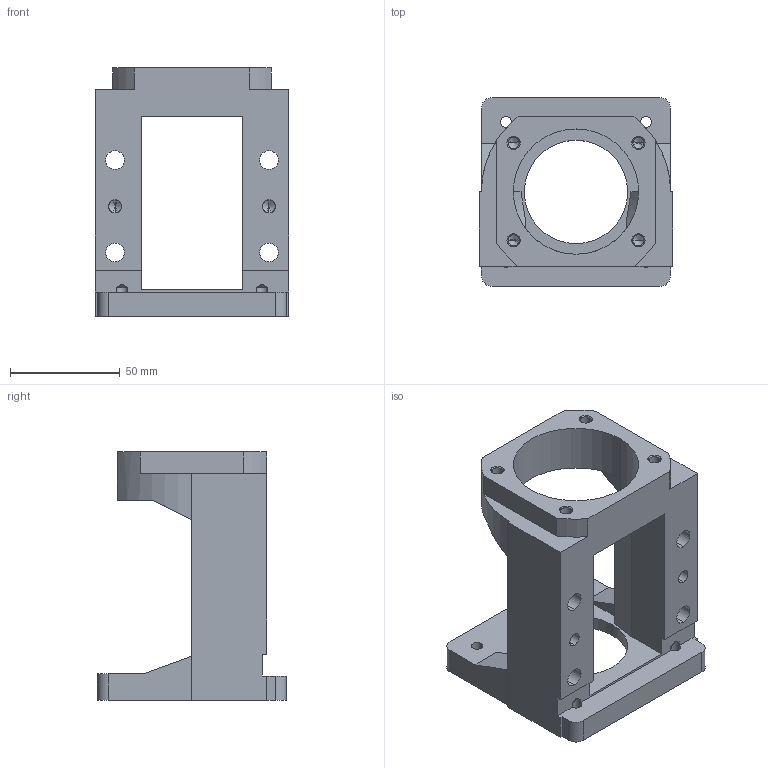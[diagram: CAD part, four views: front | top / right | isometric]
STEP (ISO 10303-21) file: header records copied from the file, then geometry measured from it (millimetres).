
FILE_DESCRIPTION (( 'STEP AP214' ), '1' );
FILE_NAME ('傳動座MBA20-EP.STEP', '2012-02-10T03:05:06', ( '' ), ( '' ), 'SwSTEP 2.0', 'SolidWorks 2011', '' );
FILE_SCHEMA (( 'AUTOMOTIVE_DESIGN' ));
Length unit declared in the file: millimetre
Products named in the file (1): 傳動座MBA20-EP
Bounding box: 88 x 86 x 113 mm (x, y, z)
Volume: 214712 mm3; surface area: 53802.6 mm2
Topology: 1 solids, 1 shells, 134 faces, 362 edges, 222 vertices
Faces by surface type: cylinder 54, plane 46, cone 34
Entity records: 4340 total; most frequent: CARTESIAN_POINT 779, DIRECTION 740, ORIENTED_EDGE 692, EDGE_CURVE 346, AXIS2_PLACEMENT_3D 267, VERTEX_POINT 222, VECTOR 206, LINE 206
